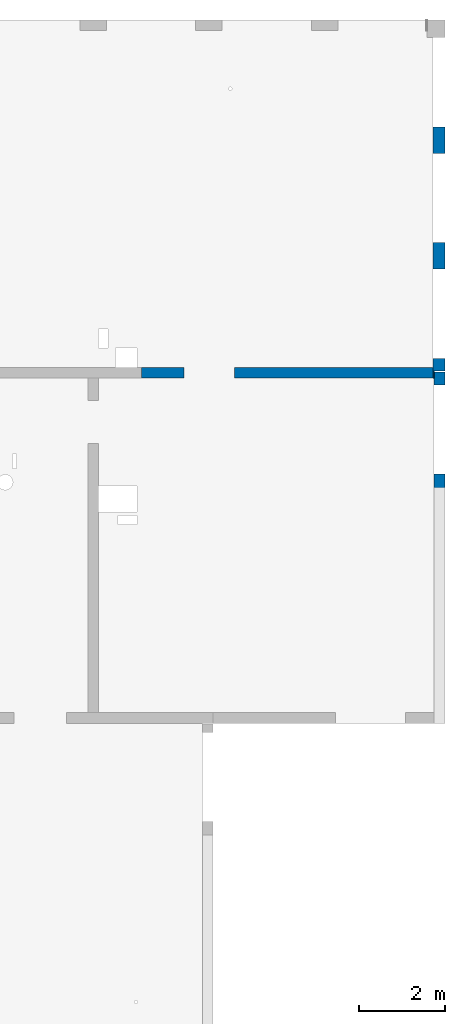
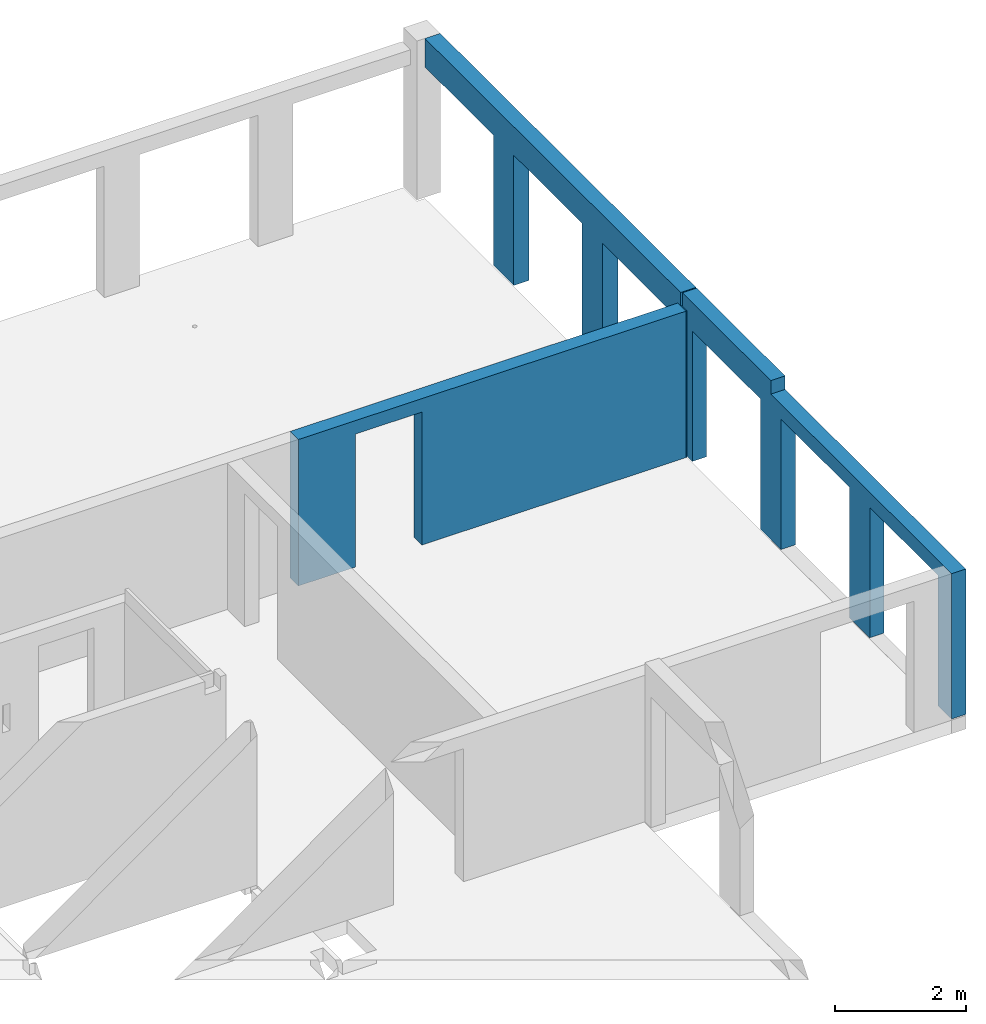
# One storey, part 6 of 11: 4 walls, 8 openings.
"""IFC2X3 building model written with IfcOpenShell, lengths in millimetres."""

from ifc_helpers import new_model, entity, si_unit, converted_unit, derived_unit, direction, frame, frame_2d, origin, place, context, subcontext, project, spatial, rectangle, extrude, material, layer, layer_set, layer_usage, type_object, element, save


model = new_model("IFC2X3")

# Units and contexts
model_context = context("Model", 3, precision=0.01, world=origin(), true_north=direction((6.12303176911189e-17, 1.0)))
body_context = subcontext(model_context, "Body", "Model", "MODEL_VIEW")
ifc_project = project(units=[si_unit("LENGTHUNIT", "METRE", prefix="MILLI"), si_unit("AREAUNIT", "SQUARE_METRE"), si_unit("VOLUMEUNIT", "CUBIC_METRE"), converted_unit("PLANEANGLEUNIT", "DEGREE", entity("IfcRatioMeasure", 0.0174532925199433), si_unit("PLANEANGLEUNIT", "RADIAN"), dimensions=[0, 0, 0, 0, 0, 0, 0]), si_unit("MASSUNIT", "GRAM", prefix="KILO"), derived_unit("MASSDENSITYUNIT", [(si_unit("MASSUNIT", "GRAM", prefix="KILO"), 1), (si_unit("LENGTHUNIT", "METRE"), -3)]), si_unit("TIMEUNIT", "SECOND"), si_unit("FREQUENCYUNIT", "HERTZ"), si_unit("THERMODYNAMICTEMPERATUREUNIT", "DEGREE_CELSIUS"), derived_unit("THERMALTRANSMITTANCEUNIT", [(si_unit("MASSUNIT", "GRAM", prefix="KILO"), 1), (si_unit("THERMODYNAMICTEMPERATUREUNIT", "KELVIN"), -1), (si_unit("TIMEUNIT", "SECOND"), -3)]), derived_unit("VOLUMETRICFLOWRATEUNIT", [(si_unit("LENGTHUNIT", "METRE"), 3), (si_unit("TIMEUNIT", "SECOND"), -1)]), si_unit("ELECTRICCURRENTUNIT", "AMPERE"), si_unit("ELECTRICVOLTAGEUNIT", "VOLT"), si_unit("POWERUNIT", "WATT"), si_unit("FORCEUNIT", "NEWTON", prefix="KILO"), si_unit("ILLUMINANCEUNIT", "LUX"), si_unit("LUMINOUSFLUXUNIT", "LUMEN"), si_unit("LUMINOUSINTENSITYUNIT", "CANDELA"), derived_unit("USERDEFINED", [(si_unit("MASSUNIT", "GRAM", prefix="KILO"), -1), (si_unit("LENGTHUNIT", "METRE"), -2), (si_unit("TIMEUNIT", "SECOND"), 3), (si_unit("LUMINOUSFLUXUNIT", "LUMEN"), 1)]), derived_unit("LINEARVELOCITYUNIT", [(si_unit("LENGTHUNIT", "METRE"), 1), (si_unit("TIMEUNIT", "SECOND"), -1)]), si_unit("PRESSUREUNIT", "PASCAL"), derived_unit("USERDEFINED", [(si_unit("LENGTHUNIT", "METRE"), -2), (si_unit("MASSUNIT", "GRAM", prefix="KILO"), 1), (si_unit("TIMEUNIT", "SECOND"), -2)])], contexts=[model_context])

# Site, building, storey
site_placement = place(None, origin())
site = spatial("IfcSite", under=ifc_project, at=site_placement, Name="Default", CompositionType="ELEMENT")
building_placement = place(site_placement, origin())
building = spatial("IfcBuilding", under=site, at=building_placement, Name="niet gebruiken", CompositionType="ELEMENT")
storey_placement = place(building_placement, frame((0.0, 0.0, 57150.0)))
storey = spatial("IfcBuildingStorey", under=building, at=storey_placement, Name="19 negentiende verdieping", CompositionType="ELEMENT", Elevation=57150.0)

# Wall, opening
ifc_material_1 = material(Name="NLRS_f2_beton ihwg")
ifc_layer_1 = layer(ifc_material_1, 250.0)
ifc_layer_set_1 = layer_set([ifc_layer_1], Name="Basic Wall:NLRS_22.21_WA_beton ihwg d=250_gen")
ifc_layer_usage_1 = layer_usage(ifc_layer_set_1, "AXIS2", "NEGATIVE", 125.0)
wall_type_1 = type_object("IfcWallType", Name="Basic Wall:NLRS_22.21_WA_beton ihwg d=250_gen", PredefinedType="STANDARD", material=ifc_layer_set_1)
wall_1_placement = place(storey_placement, frame((98325.0, 45031.0, -90.0)))
wall_1 = element("IfcWallStandardCase", 1, at=wall_1_placement, inside=storey, type_object=wall_type_1, material=ifc_layer_usage_1, Name="Basic Wall:NLRS_22.21_WA_beton ihwg d=250_gen", ObjectType="Basic Wall:NLRS_22.21_WA_beton ihwg d=250_gen", context=body_context, shape_type="SweptSolid", body=[
    extrude(rectangle(XDim=6804.99999999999, YDim=249.999999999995, at=frame_2d((3402.5, 0.0), x_axis=(-1.0, 0.0))), origin(), (0.0, 0.0, 1.0), 2719.99999999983),
])
opening_1_placement = place(wall_1_placement, origin())
element("IfcOpeningElement", 2, at=opening_1_placement, cuts=wall_1, Name="Basic Wall:NLRS_22.21_WA_beton ihwg d=250_gen", ObjectType="Opening", context=body_context, shape_type="SweptSolid", body=[
    extrude(rectangle(XDim=2470.0, YDim=1169.99999999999, at=frame_2d((4.43378667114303e-12, -8.64019966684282e-12), x_axis=(1.0, 0.0))), frame((1585.0, -1649.0, 1235.0), z_axis=(0.0, 1.0, 0.0), x_axis=(0.0, 0.0, 1.0)), (0.0, 0.0, 1.0), 3048.0),
])

# Wall, openings
ifc_material_2 = material(Name="NLRS_f2_beton prefab")
ifc_layer_2 = layer(ifc_material_2, 250.0)
ifc_layer_set_2 = layer_set([ifc_layer_2], Name="Basic Wall:NLRS_21.21_WA_beton prefab d=250_gen")
ifc_layer_usage_2 = layer_usage(ifc_layer_set_2, "AXIS2", "NEGATIVE", 125.0)
wall_type_2 = type_object("IfcWallType", Name="Basic Wall:NLRS_21.21_WA_beton prefab d=250_gen", PredefinedType="STANDARD", material=ifc_layer_set_2)
wall_2_placement = place(storey_placement, frame((105275.0, 45046.0, -70.0), z_axis=(0.0, 0.0, 1.0), x_axis=(0.0, -1.0, 0.0)))
wall_2 = element("IfcWallStandardCase", 3, at=wall_2_placement, inside=storey, type_object=wall_type_2, material=ifc_layer_usage_2, Name="Basic Wall:NLRS_21.21_WA_beton prefab d=250_gen", ObjectType="Basic Wall:NLRS_21.21_WA_beton prefab d=250_gen", context=body_context, shape_type="SweptSolid", body=[
    extrude(rectangle(XDim=8189.99999999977, YDim=250.000000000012, at=frame_2d((4094.99999999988, 0.0), x_axis=(-1.0, 0.0))), origin(), (0.0, 0.0, 1.0), 2949.99999999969),
])
opening_2_placement = place(wall_2_placement, origin())
element("IfcOpeningElement", 4, at=opening_2_placement, cuts=wall_2, Name="Basic Wall:NLRS_21.21_WA_beton prefab d=250_gen", ObjectType="Opening", context=body_context, shape_type="SweptSolid", body=[
    extrude(rectangle(XDim=2420.0, YDim=2080.0, at=frame_2d((0.0, 0.0), x_axis=(0.0, 1.0))), frame((1340.0, -1399.0, 1210.0), z_axis=(0.0, 1.0, 0.0), x_axis=(-1.0, 0.0, 0.0)), (0.0, 0.0, 1.0), 3048.0),
])
opening_3_placement = place(wall_2_placement, origin())
element("IfcOpeningElement", 5, at=opening_3_placement, cuts=wall_2, Name="Basic Wall:NLRS_21.21_WA_beton prefab d=250_gen", ObjectType="Opening", context=body_context, shape_type="SweptSolid", body=[
    extrude(rectangle(XDim=2420.0, YDim=2080.0, at=frame_2d((0.0, 0.0), x_axis=(0.0, 1.0))), frame((4040.0, -1399.0, 1210.0), z_axis=(0.0, 1.0, 0.0), x_axis=(-1.0, 0.0, 0.0)), (0.0, 0.0, 1.0), 3048.0),
])
opening_4_placement = place(wall_2_placement, origin())
element("IfcOpeningElement", 6, at=opening_4_placement, cuts=wall_2, Name="Basic Wall:NLRS_21.21_WA_beton prefab d=250_gen", ObjectType="Opening", context=body_context, shape_type="SweptSolid", body=[
    extrude(rectangle(XDim=2420.0, YDim=2080.0, at=frame_2d((0.0, 0.0), x_axis=(0.0, 1.0))), frame((6740.0, -1399.0, 1210.0), z_axis=(0.0, 1.0, 0.0), x_axis=(-1.0, 0.0, 0.0)), (0.0, 0.0, 1.0), 3048.0),
])
opening_5_placement = place(wall_2_placement, origin())
element("IfcOpeningElement", 7, at=opening_5_placement, cuts=wall_2, Name="Basic Wall:NLRS_21.21_WA_beton prefab d=250_gen", ObjectType="Opening", context=body_context, shape_type="SweptSolid", body=[
    extrude(rectangle(XDim=250.000000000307, YDim=5500.0000000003, at=frame_2d((-8.66862137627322e-12, 4.32009983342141e-12), x_axis=(1.0, 0.0))), frame((5440.0, 125.0, 2825.0), z_axis=(0.0, -1.0, 0.0), x_axis=(0.0, 0.0, 1.0)), (0.0, 0.0, 1.0), 250.0),
])

ifc_layer_3 = layer(ifc_material_2, 270.0)
ifc_layer_set_3 = layer_set([ifc_layer_3], Name="Basic Wall:NLRS_21.21_WA_beton prefab d=270_gen")
ifc_layer_usage_3 = layer_usage(ifc_layer_set_3, "AXIS2", "NEGATIVE", 135.0)
wall_type_3 = type_object("IfcWallType", Name="Basic Wall:NLRS_21.21_WA_beton prefab d=270_gen", PredefinedType="STANDARD", material=ifc_layer_set_3)
wall_3_placement = place(storey_placement, frame((105265.0, 52846.0, -70.0), z_axis=(0.0, 0.0, 1.0), x_axis=(0.0, -1.0, 0.0)))
wall_3 = element("IfcWallStandardCase", 8, at=wall_3_placement, inside=storey, type_object=wall_type_3, material=ifc_layer_usage_3, Name="Basic Wall:NLRS_21.21_WA_beton prefab d=270_gen", ObjectType="Basic Wall:NLRS_21.21_WA_beton prefab d=270_gen", context=body_context, shape_type="SweptSolid", body=[
    extrude(rectangle(XDim=7779.99999999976, YDim=270.000000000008, at=frame_2d((3889.99999999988, 0.0), x_axis=(-1.0, 0.0))), origin(), (0.0, 0.0, 1.0), 2949.99999999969),
])
opening_6_placement = place(wall_3_placement, origin())
element("IfcOpeningElement", 9, at=opening_6_placement, cuts=wall_3, Name="Basic Wall:NLRS_21.21_WA_beton prefab d=270_gen", ObjectType="Opening", context=body_context, shape_type="SweptSolid", body=[
    extrude(rectangle(XDim=2420.0, YDim=2080.0, at=frame_2d((0.0, 0.0), x_axis=(0.0, 1.0))), frame((1040.0, -1389.0, 1210.0), z_axis=(0.0, 1.0, 0.0), x_axis=(-1.0, 0.0, 0.0)), (0.0, 0.0, 1.0), 3048.0),
])
opening_7_placement = place(wall_3_placement, origin())
element("IfcOpeningElement", 10, at=opening_7_placement, cuts=wall_3, Name="Basic Wall:NLRS_21.21_WA_beton prefab d=270_gen", ObjectType="Opening", context=body_context, shape_type="SweptSolid", body=[
    extrude(rectangle(XDim=2420.0, YDim=2080.0, at=frame_2d((0.0, 0.0), x_axis=(0.0, 1.0))), frame((3740.0, -1389.0, 1210.0), z_axis=(0.0, 1.0, 0.0), x_axis=(-1.0, 0.0, 0.0)), (0.0, 0.0, 1.0), 3048.0),
])
opening_8_placement = place(wall_3_placement, origin())
element("IfcOpeningElement", 11, at=opening_8_placement, cuts=wall_3, Name="Basic Wall:NLRS_21.21_WA_beton prefab d=270_gen", ObjectType="Opening", context=body_context, shape_type="SweptSolid", body=[
    extrude(rectangle(XDim=2420.0, YDim=2080.0, at=frame_2d((0.0, 0.0), x_axis=(0.0, 1.0))), frame((6440.0, -1389.0, 1210.0), z_axis=(0.0, 1.0, 0.0), x_axis=(-1.0, 0.0, 0.0)), (0.0, 0.0, 1.0), 3048.0),
])

# Wall
ifc_layer_4 = layer(ifc_material_1, 160.0)
ifc_layer_set_4 = layer_set([ifc_layer_4], Name="Basic Wall:NLRS_22.21_WA_beton ihwg d=160_gen")
ifc_layer_usage_4 = layer_usage(ifc_layer_set_4, "AXIS2", "NEGATIVE", 80.0)
wall_type_4 = type_object("IfcWallType", Name="Basic Wall:NLRS_22.21_WA_beton ihwg d=160_gen", PredefinedType="STANDARD", material=ifc_layer_set_4)
wall_4_placement = place(storey_placement, frame((105130.0, 44986.0, -90.0)))
element("IfcWallStandardCase", 12, at=wall_4_placement, inside=storey, type_object=wall_type_4, material=ifc_layer_usage_4, Name="Basic Wall:NLRS_22.21_WA_beton ihwg d=160_gen", ObjectType="Basic Wall:NLRS_22.21_WA_beton ihwg d=160_gen", context=body_context, shape_type="SweptSolid", body=[
    extrude(rectangle(XDim=19.9999999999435, YDim=159.999999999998, at=frame_2d((9.99999999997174, 0.0), x_axis=(-1.0, 0.0))), origin(), (0.0, 0.0, 1.0), 2719.99999999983),
])

save(model, "model.ifc")
